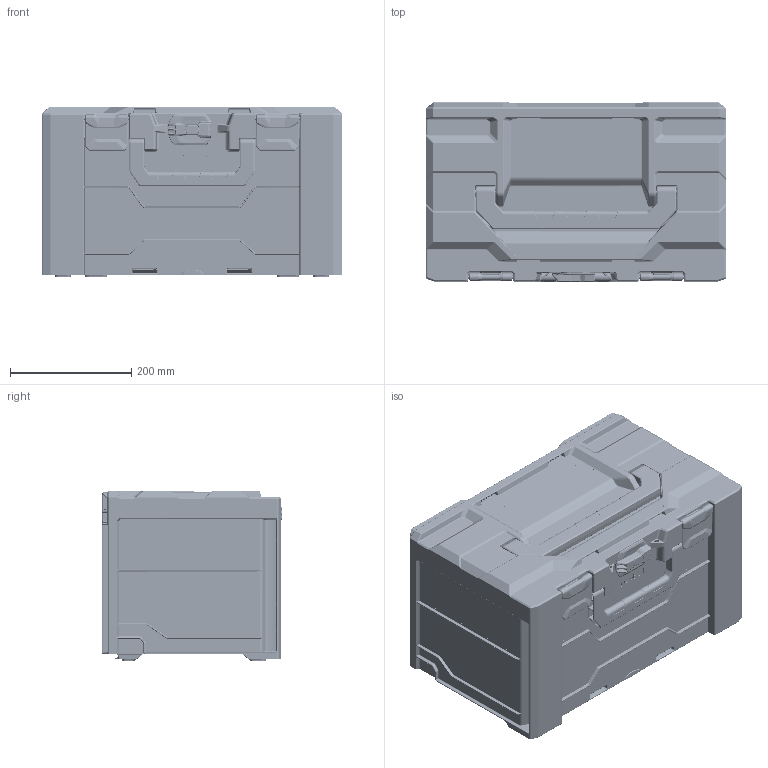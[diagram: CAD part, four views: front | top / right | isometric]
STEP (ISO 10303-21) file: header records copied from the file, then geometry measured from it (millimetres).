
FILE_DESCRIPTION(/* description */ (''),/* implementation_level */ '2;1');
FILE_NAME(/* name */ 'metaBOX_280_L_Neutral.stp',/* time_stamp */ '2021-08-09T15:13:25+02:00',/* author */ (''),/* organization */ (''),/* preprocessor_version */ 'ST-DEVELOPER v16.7',/* originating_system */ 'SIEMENS PLM Software NX 12.0',/* authorisation */ '');
FILE_SCHEMA (('AUTOMOTIVE_DESIGN { 1 0 10303 214 3 1 1 1 }'));
Products named in the file (1): BU4318FC23k7bj
Bounding box: 496 x 296.4 x 280 mm (x, y, z)
Volume: 2456608.3 mm3; surface area: 1919576.3 mm2
Topology: 9 solids, 10 shells, 14238 faces, 35043 edges, 20376 vertices
Faces by surface type: bspline 5488, cylinder 4694, plane 3148, sphere 374, cone 283, torus 249, extrusion 2
Full cylindrical faces by diameter (mm): 4 x12
Entity records: 592759 total; most frequent: CARTESIAN_POINT 250966, ORIENTED_EDGE 68688, DIRECTION 56096, EDGE_CURVE 34346, AXIS2_PLACEMENT_3D 21840, VERTEX_POINT 20326, EDGE_LOOP 14553, ADVANCED_FACE 14234
